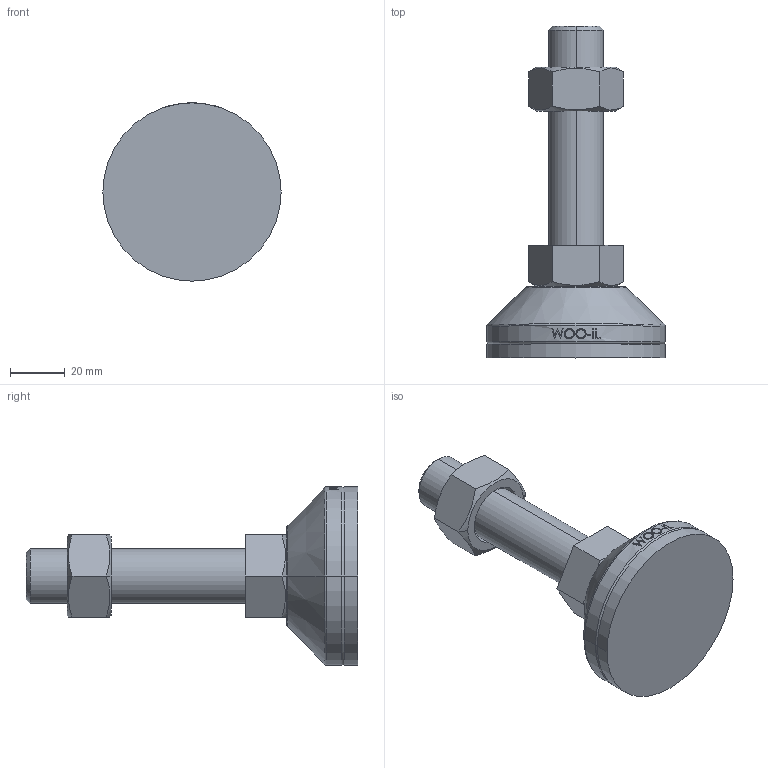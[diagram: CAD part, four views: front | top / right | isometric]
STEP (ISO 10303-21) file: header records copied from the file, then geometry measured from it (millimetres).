
FILE_DESCRIPTION (( 'STEP AP214' ), '1' );
FILE_NAME ('NHNR65-M20-80.step', '2021-01-25T06:18:41', ( '' ), ( '' ), 'SwSTEP 2.0', 'SolidWorks 2019', '' );
FILE_SCHEMA (( 'AUTOMOTIVE_DESIGN' ));
Length unit declared in the file: millimetre
Products named in the file (2): NHNR65-M20-80
Bounding box: 65 x 121 x 65 mm (x, y, z)
Volume: 111827.5 mm3; surface area: 28240.2 mm2
Topology: 4 solids, 4 shells, 105 faces, 239 edges, 152 vertices
Faces by surface type: plane 49, cylinder 18, bspline 16, cone 14, torus 8
Entity records: 4375 total; most frequent: CARTESIAN_POINT 2058, ORIENTED_EDGE 478, DIRECTION 429, EDGE_CURVE 239, AXIS2_PLACEMENT_3D 165, VERTEX_POINT 152, EDGE_LOOP 117, FACE_OUTER_BOUND 105
